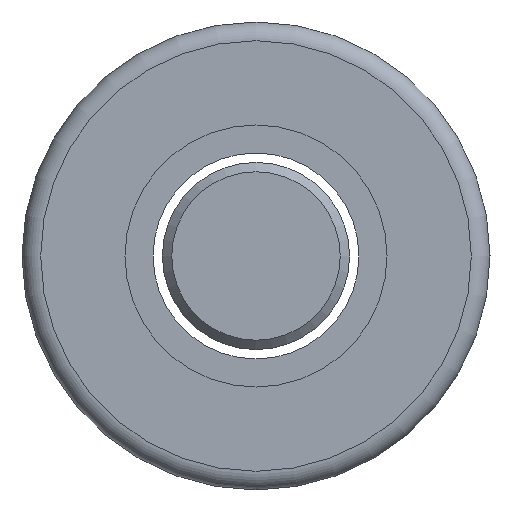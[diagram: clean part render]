
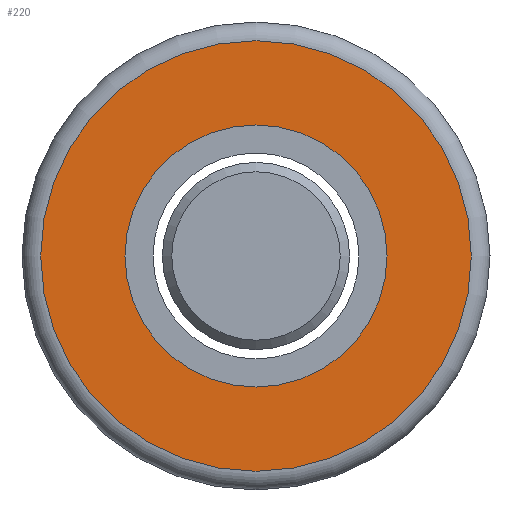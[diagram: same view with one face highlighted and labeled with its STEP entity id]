
A CAD part, left-side view. The second image highlights one B-rep face of the part: STEP entity #220.
In plain terms, the highlighted planar face has unit normal (-1, 0, 0).
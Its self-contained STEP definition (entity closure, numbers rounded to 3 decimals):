
#220 = ADVANCED_FACE ( 'NONE', ( #2189, #263 ), #1152, .T. ) ;
#263 = FACE_OUTER_BOUND ( 'NONE', #398, .T. ) ;
#293 = CIRCLE ( 'NONE', #401, 11.5 ) ;
#367 = VERTEX_POINT ( 'NONE', #776 ) ;
#398 = EDGE_LOOP ( 'NONE', ( #2040 ) ) ;
#401 = AXIS2_PLACEMENT_3D ( 'NONE', #466, #1162, #2071 ) ;
#412 = CARTESIAN_POINT ( 'NONE',  ( -44., 9.25, 0. ) ) ;
#447 = AXIS2_PLACEMENT_3D ( 'NONE', #412, #1289, #1872 ) ;
#466 = CARTESIAN_POINT ( 'NONE',  ( -44., 0., 0. ) ) ;
#728 = EDGE_CURVE ( 'NONE', #949, #949, #293, .T. ) ;
#776 = CARTESIAN_POINT ( 'NONE',  ( -44., 7., 0. ) ) ;
#949 = VERTEX_POINT ( 'NONE', #1133 ) ;
#1063 = EDGE_CURVE ( 'NONE', #367, #367, #1374, .T. ) ;
#1133 = CARTESIAN_POINT ( 'NONE',  ( -44., 11.5, 0. ) ) ;
#1152 = PLANE ( 'NONE',  #447 ) ;
#1162 = DIRECTION ( 'NONE',  ( 1., 0., 0. ) ) ;
#1233 = EDGE_LOOP ( 'NONE', ( #2307 ) ) ;
#1289 = DIRECTION ( 'NONE',  ( -1., 0., 0. ) ) ;
#1309 = CARTESIAN_POINT ( 'NONE',  ( -44., 0., 0. ) ) ;
#1374 = CIRCLE ( 'NONE', #1758, 7. ) ;
#1758 = AXIS2_PLACEMENT_3D ( 'NONE', #1309, #1854, #2033 ) ;
#1854 = DIRECTION ( 'NONE',  ( 1., 0., 0. ) ) ;
#1872 = DIRECTION ( 'NONE',  ( 0., 0., 1. ) ) ;
#2033 = DIRECTION ( 'NONE',  ( 0., 1., 0. ) ) ;
#2040 = ORIENTED_EDGE ( 'NONE', *, *, #728, .F. ) ;
#2071 = DIRECTION ( 'NONE',  ( 0., 1., 0. ) ) ;
#2189 = FACE_BOUND ( 'NONE', #1233, .T. ) ;
#2307 = ORIENTED_EDGE ( 'NONE', *, *, #1063, .T. ) ;
